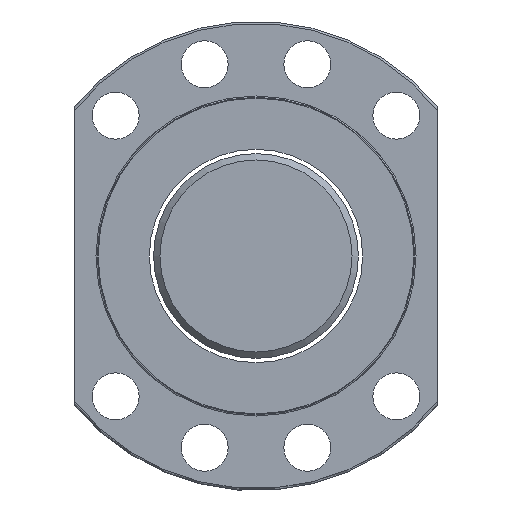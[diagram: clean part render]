
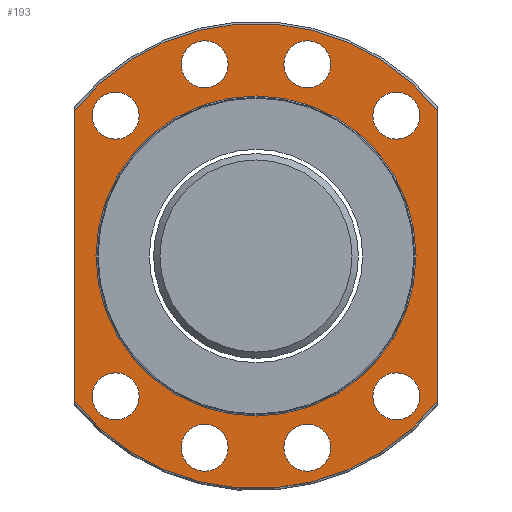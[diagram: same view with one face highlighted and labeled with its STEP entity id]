
A CAD part, left-side view. The second image highlights one B-rep face of the part: STEP entity #193.
In plain terms, the highlighted planar face has unit normal (-1, 0, 0).
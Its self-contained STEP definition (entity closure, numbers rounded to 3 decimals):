
#97=LINE('',#1303,#105);
#98=LINE('',#1304,#106);
#105=VECTOR('',#995,1.);
#106=VECTOR('',#996,1.);
#193=ADVANCED_FACE('',(#245,#289,#290,#291,#292,#293,#294,#295,#296,#297),
#223,.T.);
#223=PLANE('',#837);
#245=FACE_OUTER_BOUND('',#385,.T.);
#289=FACE_BOUND('',#386,.T.);
#290=FACE_BOUND('',#387,.T.);
#291=FACE_BOUND('',#388,.T.);
#292=FACE_BOUND('',#389,.T.);
#293=FACE_BOUND('',#390,.T.);
#294=FACE_BOUND('',#391,.T.);
#295=FACE_BOUND('',#392,.T.);
#296=FACE_BOUND('',#393,.T.);
#297=FACE_BOUND('',#394,.T.);
#385=EDGE_LOOP('',(#501,#502,#503,#504));
#386=EDGE_LOOP('',(#505));
#387=EDGE_LOOP('',(#506));
#388=EDGE_LOOP('',(#507));
#389=EDGE_LOOP('',(#508));
#390=EDGE_LOOP('',(#509));
#391=EDGE_LOOP('',(#510));
#392=EDGE_LOOP('',(#511));
#393=EDGE_LOOP('',(#512));
#394=EDGE_LOOP('',(#513));
#501=ORIENTED_EDGE('',*,*,#680,.F.);
#502=ORIENTED_EDGE('',*,*,#669,.F.);
#503=ORIENTED_EDGE('',*,*,#681,.T.);
#504=ORIENTED_EDGE('',*,*,#677,.F.);
#505=ORIENTED_EDGE('',*,*,#682,.T.);
#506=ORIENTED_EDGE('',*,*,#683,.F.);
#507=ORIENTED_EDGE('',*,*,#684,.F.);
#508=ORIENTED_EDGE('',*,*,#685,.F.);
#509=ORIENTED_EDGE('',*,*,#686,.F.);
#510=ORIENTED_EDGE('',*,*,#687,.F.);
#511=ORIENTED_EDGE('',*,*,#688,.F.);
#512=ORIENTED_EDGE('',*,*,#689,.F.);
#513=ORIENTED_EDGE('',*,*,#690,.F.);
#604=VERTEX_POINT('',#1185);
#606=VERTEX_POINT('',#1207);
#611=VERTEX_POINT('',#1277);
#613=VERTEX_POINT('',#1280);
#615=VERTEX_POINT('',#1306);
#616=VERTEX_POINT('',#1308);
#617=VERTEX_POINT('',#1310);
#618=VERTEX_POINT('',#1312);
#619=VERTEX_POINT('',#1314);
#620=VERTEX_POINT('',#1316);
#621=VERTEX_POINT('',#1318);
#622=VERTEX_POINT('',#1320);
#623=VERTEX_POINT('',#1322);
#669=EDGE_CURVE('',#606,#604,#738,.T.);
#677=EDGE_CURVE('',#611,#613,#741,.T.);
#680=EDGE_CURVE('',#604,#611,#97,.T.);
#681=EDGE_CURVE('',#606,#613,#98,.T.);
#682=EDGE_CURVE('',#615,#615,#743,.T.);
#683=EDGE_CURVE('',#616,#616,#744,.T.);
#684=EDGE_CURVE('',#617,#617,#745,.T.);
#685=EDGE_CURVE('',#618,#618,#746,.T.);
#686=EDGE_CURVE('',#619,#619,#747,.T.);
#687=EDGE_CURVE('',#620,#620,#748,.T.);
#688=EDGE_CURVE('',#621,#621,#749,.T.);
#689=EDGE_CURVE('',#622,#622,#750,.T.);
#690=EDGE_CURVE('',#623,#623,#751,.T.);
#738=CIRCLE('',#819,54.5);
#741=CIRCLE('',#825,54.5);
#743=CIRCLE('',#828,37.5);
#744=CIRCLE('',#829,5.5);
#745=CIRCLE('',#830,5.5);
#746=CIRCLE('',#831,5.5);
#747=CIRCLE('',#832,5.5);
#748=CIRCLE('',#833,5.5);
#749=CIRCLE('',#834,5.5);
#750=CIRCLE('',#835,5.5);
#751=CIRCLE('',#836,5.5);
#819=AXIS2_PLACEMENT_3D('',#1208,#975,#976);
#825=AXIS2_PLACEMENT_3D('',#1279,#989,#990);
#828=AXIS2_PLACEMENT_3D('',#1305,#997,#998);
#829=AXIS2_PLACEMENT_3D('',#1307,#999,#1000);
#830=AXIS2_PLACEMENT_3D('',#1309,#1001,#1002);
#831=AXIS2_PLACEMENT_3D('',#1311,#1003,#1004);
#832=AXIS2_PLACEMENT_3D('',#1313,#1005,#1006);
#833=AXIS2_PLACEMENT_3D('',#1315,#1007,#1008);
#834=AXIS2_PLACEMENT_3D('',#1317,#1009,#1010);
#835=AXIS2_PLACEMENT_3D('',#1319,#1011,#1012);
#836=AXIS2_PLACEMENT_3D('',#1321,#1013,#1014);
#837=AXIS2_PLACEMENT_3D('',#1323,#1015,#1016);
#975=DIRECTION('',(1.,0.,0.));
#976=DIRECTION('',(0.,1.,0.));
#989=DIRECTION('',(1.,0.,0.));
#990=DIRECTION('',(0.,1.,0.));
#995=DIRECTION('',(0.,0.,1.));
#996=DIRECTION('',(0.,0.,1.));
#997=DIRECTION('',(1.,0.,0.));
#998=DIRECTION('',(0.,1.,0.));
#999=DIRECTION('',(-1.,0.,0.));
#1000=DIRECTION('',(0.,-1.,0.));
#1001=DIRECTION('',(-1.,0.,0.));
#1002=DIRECTION('',(0.,-1.,0.));
#1003=DIRECTION('',(-1.,0.,0.));
#1004=DIRECTION('',(0.,-1.,0.));
#1005=DIRECTION('',(-1.,0.,0.));
#1006=DIRECTION('',(0.,-1.,0.));
#1007=DIRECTION('',(-1.,0.,0.));
#1008=DIRECTION('',(0.,-1.,0.));
#1009=DIRECTION('',(-1.,0.,0.));
#1010=DIRECTION('',(0.,-1.,0.));
#1011=DIRECTION('',(-1.,0.,0.));
#1012=DIRECTION('',(0.,-1.,0.));
#1013=DIRECTION('',(-1.,0.,0.));
#1014=DIRECTION('',(0.,-1.,0.));
#1015=DIRECTION('',(-1.,0.,0.));
#1016=DIRECTION('',(0.,-1.,0.));
#1185=CARTESIAN_POINT('',(-38.,42.5,-34.117));
#1207=CARTESIAN_POINT('',(-38.,-42.5,-34.117));
#1208=CARTESIAN_POINT('',(-38.,0.,0.));
#1277=CARTESIAN_POINT('',(-38.,42.5,34.117));
#1279=CARTESIAN_POINT('',(-38.,0.,0.));
#1280=CARTESIAN_POINT('',(-38.,-42.5,34.117));
#1303=CARTESIAN_POINT('',(-38.,42.5,0.));
#1304=CARTESIAN_POINT('',(-38.,-42.5,0.));
#1305=CARTESIAN_POINT('',(-38.,0.,0.));
#1306=CARTESIAN_POINT('',(-38.,37.5,0.));
#1307=CARTESIAN_POINT('',(-38.,12.035,44.916));
#1308=CARTESIAN_POINT('',(-38.,6.535,44.916));
#1309=CARTESIAN_POINT('',(-38.,-12.035,44.916));
#1310=CARTESIAN_POINT('',(-38.,-17.535,44.916));
#1311=CARTESIAN_POINT('',(-38.,-12.035,-44.916));
#1312=CARTESIAN_POINT('',(-38.,-17.535,-44.916));
#1313=CARTESIAN_POINT('',(-38.,12.035,-44.916));
#1314=CARTESIAN_POINT('',(-38.,6.535,-44.916));
#1315=CARTESIAN_POINT('',(-38.,-32.881,32.881));
#1316=CARTESIAN_POINT('',(-38.,-38.381,32.881));
#1317=CARTESIAN_POINT('',(-38.,32.88,32.881));
#1318=CARTESIAN_POINT('',(-38.,27.38,32.881));
#1319=CARTESIAN_POINT('',(-38.,-32.881,-32.881));
#1320=CARTESIAN_POINT('',(-38.,-38.381,-32.881));
#1321=CARTESIAN_POINT('',(-38.,32.88,-32.881));
#1322=CARTESIAN_POINT('',(-38.,27.38,-32.881));
#1323=CARTESIAN_POINT('',(-38.,46.,0.));
